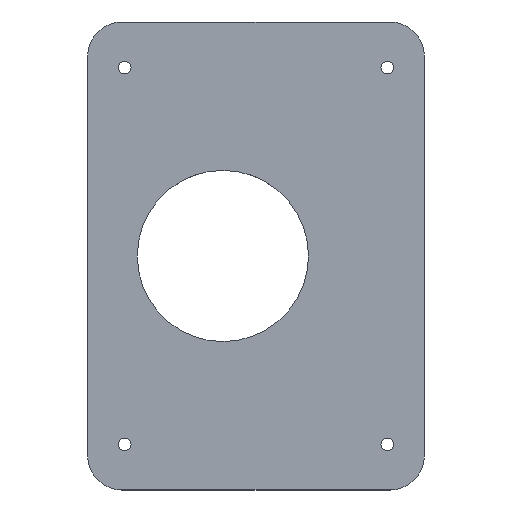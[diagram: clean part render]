
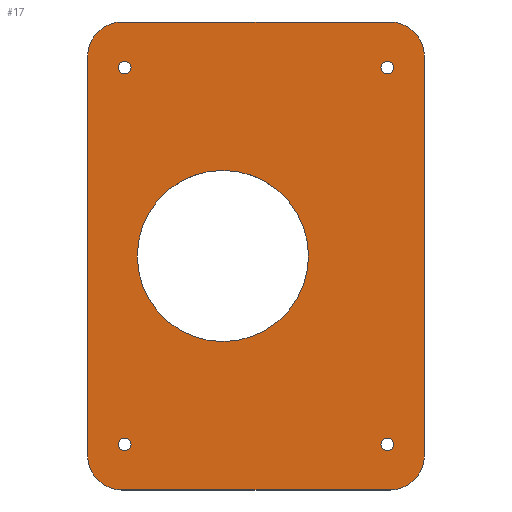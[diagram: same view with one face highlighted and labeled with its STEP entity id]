
A CAD part, top view. The second image highlights one B-rep face of the part: STEP entity #17.
In plain terms, the highlighted planar face has unit normal (0, 0, 1).
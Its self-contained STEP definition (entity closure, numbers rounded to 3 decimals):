
#17 = ADVANCED_FACE('',(#18,#88,#99,#110,#121,#132),#143,.T.);
#18 = FACE_BOUND('',#19,.T.);
#19 = EDGE_LOOP('',(#20,#31,#39,#48,#56,#65,#73,#82));
#20 = ORIENTED_EDGE('',*,*,#21,.T.);
#21 = EDGE_CURVE('',#22,#24,#26,.T.);
#22 = VERTEX_POINT('',#23);
#23 = CARTESIAN_POINT('',(-29.5,-35.,10.6));
#24 = VERTEX_POINT('',#25);
#25 = CARTESIAN_POINT('',(-23.5,-41.,10.6));
#26 = CIRCLE('',#27,6.);
#27 = AXIS2_PLACEMENT_3D('',#28,#29,#30);
#28 = CARTESIAN_POINT('',(-23.5,-35.,10.6));
#29 = DIRECTION('',(0.,0.,1.));
#30 = DIRECTION('',(1.,0.,0.));
#31 = ORIENTED_EDGE('',*,*,#32,.T.);
#32 = EDGE_CURVE('',#24,#33,#35,.T.);
#33 = VERTEX_POINT('',#34);
#34 = CARTESIAN_POINT('',(23.5,-41.,10.6));
#35 = LINE('',#36,#37);
#36 = CARTESIAN_POINT('',(-23.5,-41.,10.6));
#37 = VECTOR('',#38,1.);
#38 = DIRECTION('',(1.,0.,0.));
#39 = ORIENTED_EDGE('',*,*,#40,.T.);
#40 = EDGE_CURVE('',#33,#41,#43,.T.);
#41 = VERTEX_POINT('',#42);
#42 = CARTESIAN_POINT('',(29.5,-35.,10.6));
#43 = CIRCLE('',#44,6.);
#44 = AXIS2_PLACEMENT_3D('',#45,#46,#47);
#45 = CARTESIAN_POINT('',(23.5,-35.,10.6));
#46 = DIRECTION('',(0.,0.,1.));
#47 = DIRECTION('',(1.,0.,0.));
#48 = ORIENTED_EDGE('',*,*,#49,.T.);
#49 = EDGE_CURVE('',#41,#50,#52,.T.);
#50 = VERTEX_POINT('',#51);
#51 = CARTESIAN_POINT('',(29.5,35.,10.6));
#52 = LINE('',#53,#54);
#53 = CARTESIAN_POINT('',(29.5,-35.,10.6));
#54 = VECTOR('',#55,1.);
#55 = DIRECTION('',(0.,1.,0.));
#56 = ORIENTED_EDGE('',*,*,#57,.T.);
#57 = EDGE_CURVE('',#50,#58,#60,.T.);
#58 = VERTEX_POINT('',#59);
#59 = CARTESIAN_POINT('',(23.5,41.,10.6));
#60 = CIRCLE('',#61,6.);
#61 = AXIS2_PLACEMENT_3D('',#62,#63,#64);
#62 = CARTESIAN_POINT('',(23.5,35.,10.6));
#63 = DIRECTION('',(0.,0.,1.));
#64 = DIRECTION('',(1.,0.,0.));
#65 = ORIENTED_EDGE('',*,*,#66,.F.);
#66 = EDGE_CURVE('',#67,#58,#69,.T.);
#67 = VERTEX_POINT('',#68);
#68 = CARTESIAN_POINT('',(-23.5,41.,10.6));
#69 = LINE('',#70,#71);
#70 = CARTESIAN_POINT('',(-23.5,41.,10.6));
#71 = VECTOR('',#72,1.);
#72 = DIRECTION('',(1.,0.,0.));
#73 = ORIENTED_EDGE('',*,*,#74,.T.);
#74 = EDGE_CURVE('',#67,#75,#77,.T.);
#75 = VERTEX_POINT('',#76);
#76 = CARTESIAN_POINT('',(-29.5,35.,10.6));
#77 = CIRCLE('',#78,6.);
#78 = AXIS2_PLACEMENT_3D('',#79,#80,#81);
#79 = CARTESIAN_POINT('',(-23.5,35.,10.6));
#80 = DIRECTION('',(0.,0.,1.));
#81 = DIRECTION('',(1.,0.,0.));
#82 = ORIENTED_EDGE('',*,*,#83,.F.);
#83 = EDGE_CURVE('',#22,#75,#84,.T.);
#84 = LINE('',#85,#86);
#85 = CARTESIAN_POINT('',(-29.5,-35.,10.6));
#86 = VECTOR('',#87,1.);
#87 = DIRECTION('',(0.,1.,0.));
#88 = FACE_BOUND('',#89,.T.);
#89 = EDGE_LOOP('',(#90));
#90 = ORIENTED_EDGE('',*,*,#91,.T.);
#91 = EDGE_CURVE('',#92,#92,#94,.T.);
#92 = VERTEX_POINT('',#93);
#93 = CARTESIAN_POINT('',(-21.9,-33.,10.6));
#94 = CIRCLE('',#95,1.1);
#95 = AXIS2_PLACEMENT_3D('',#96,#97,#98);
#96 = CARTESIAN_POINT('',(-23.,-33.,10.6));
#97 = DIRECTION('',(0.,0.,-1.));
#98 = DIRECTION('',(1.,0.,0.));
#99 = FACE_BOUND('',#100,.T.);
#100 = EDGE_LOOP('',(#101));
#101 = ORIENTED_EDGE('',*,*,#102,.T.);
#102 = EDGE_CURVE('',#103,#103,#105,.T.);
#103 = VERTEX_POINT('',#104);
#104 = CARTESIAN_POINT('',(24.1,-33.,10.6));
#105 = CIRCLE('',#106,1.1);
#106 = AXIS2_PLACEMENT_3D('',#107,#108,#109);
#107 = CARTESIAN_POINT('',(23.,-33.,10.6));
#108 = DIRECTION('',(0.,0.,-1.));
#109 = DIRECTION('',(1.,0.,0.));
#110 = FACE_BOUND('',#111,.T.);
#111 = EDGE_LOOP('',(#112));
#112 = ORIENTED_EDGE('',*,*,#113,.T.);
#113 = EDGE_CURVE('',#114,#114,#116,.T.);
#114 = VERTEX_POINT('',#115);
#115 = CARTESIAN_POINT('',(9.2,0.,10.6));
#116 = CIRCLE('',#117,15.);
#117 = AXIS2_PLACEMENT_3D('',#118,#119,#120);
#118 = CARTESIAN_POINT('',(-5.8,0.,10.6));
#119 = DIRECTION('',(0.,0.,-1.));
#120 = DIRECTION('',(1.,0.,0.));
#121 = FACE_BOUND('',#122,.T.);
#122 = EDGE_LOOP('',(#123));
#123 = ORIENTED_EDGE('',*,*,#124,.T.);
#124 = EDGE_CURVE('',#125,#125,#127,.T.);
#125 = VERTEX_POINT('',#126);
#126 = CARTESIAN_POINT('',(-21.9,33.,10.6));
#127 = CIRCLE('',#128,1.1);
#128 = AXIS2_PLACEMENT_3D('',#129,#130,#131);
#129 = CARTESIAN_POINT('',(-23.,33.,10.6));
#130 = DIRECTION('',(0.,0.,-1.));
#131 = DIRECTION('',(1.,0.,0.));
#132 = FACE_BOUND('',#133,.T.);
#133 = EDGE_LOOP('',(#134));
#134 = ORIENTED_EDGE('',*,*,#135,.T.);
#135 = EDGE_CURVE('',#136,#136,#138,.T.);
#136 = VERTEX_POINT('',#137);
#137 = CARTESIAN_POINT('',(24.1,33.,10.6));
#138 = CIRCLE('',#139,1.1);
#139 = AXIS2_PLACEMENT_3D('',#140,#141,#142);
#140 = CARTESIAN_POINT('',(23.,33.,10.6));
#141 = DIRECTION('',(0.,0.,-1.));
#142 = DIRECTION('',(1.,0.,0.));
#143 = PLANE('',#144);
#144 = AXIS2_PLACEMENT_3D('',#145,#146,#147);
#145 = CARTESIAN_POINT('',(0.,0.,10.6));
#146 = DIRECTION('',(0.,0.,1.));
#147 = DIRECTION('',(1.,0.,0.));
